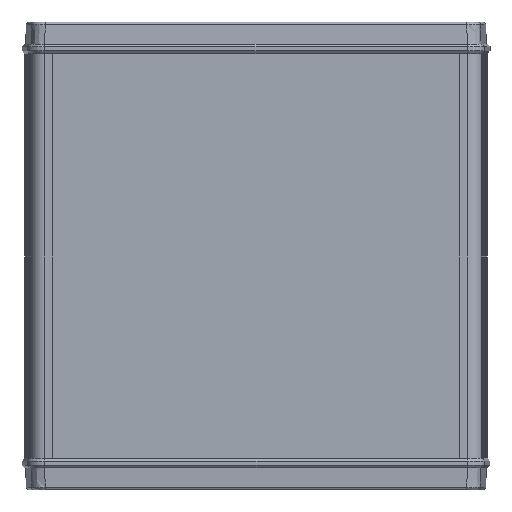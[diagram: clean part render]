
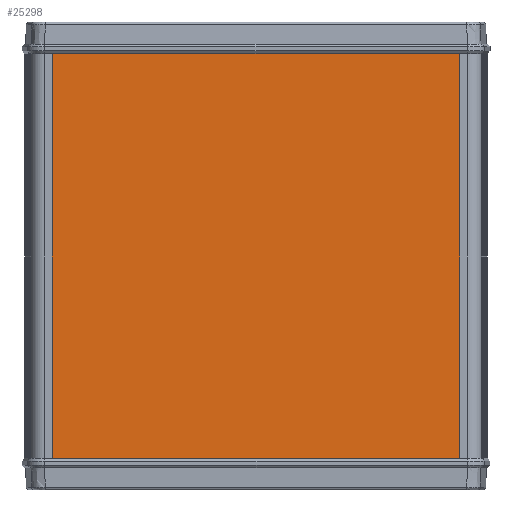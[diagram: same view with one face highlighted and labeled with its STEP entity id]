
A CAD part, front view. The second image highlights one B-rep face of the part: STEP entity #25298.
In plain terms, the highlighted planar face has unit normal (0, -1, 0).
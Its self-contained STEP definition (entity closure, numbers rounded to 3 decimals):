
#2360=FACE_OUTER_BOUND('',#3836,.T.);
#3836=EDGE_LOOP('',(#17701,#17702,#17703,#17704));
#5868=LINE('',#38002,#8458);
#5869=LINE('',#38005,#8459);
#5870=LINE('',#38007,#8460);
#5871=LINE('',#38008,#8461);
#8458=VECTOR('',#30386,150.);
#8459=VECTOR('',#30389,149.);
#8460=VECTOR('',#30390,149.);
#8461=VECTOR('',#30391,150.);
#10915=VERTEX_POINT('',#37998);
#10916=VERTEX_POINT('',#38000);
#10917=VERTEX_POINT('',#38004);
#10918=VERTEX_POINT('',#38006);
#13656=EDGE_CURVE('',#10916,#10915,#5868,.T.);
#13657=EDGE_CURVE('',#10917,#10915,#5869,.T.);
#13658=EDGE_CURVE('',#10916,#10918,#5870,.T.);
#13659=EDGE_CURVE('',#10918,#10917,#5871,.T.);
#17701=ORIENTED_EDGE('',*,*,#13657,.T.);
#17702=ORIENTED_EDGE('',*,*,#13656,.F.);
#17703=ORIENTED_EDGE('',*,*,#13658,.T.);
#17704=ORIENTED_EDGE('',*,*,#13659,.T.);
#24444=PLANE('',#26911);
#25298=ADVANCED_FACE('',(#2360),#24444,.T.);
#26911=AXIS2_PLACEMENT_3D('',#38003,#30387,#30388);
#30386=DIRECTION('',(0.,0.,-1.));
#30387=DIRECTION('center_axis',(0.,-1.,0.));
#30388=DIRECTION('ref_axis',(0.,0.,-1.));
#30389=DIRECTION('',(1.,0.,0.));
#30390=DIRECTION('',(-1.,0.,0.));
#30391=DIRECTION('',(0.,0.,-1.));
#37998=CARTESIAN_POINT('',(155.304,66.916,-200.));
#38000=CARTESIAN_POINT('',(155.304,66.916,-50.));
#38002=CARTESIAN_POINT('',(155.304,66.916,-50.));
#38003=CARTESIAN_POINT('Origin',(6.304,66.916,0.));
#38004=CARTESIAN_POINT('',(6.304,66.916,-200.));
#38005=CARTESIAN_POINT('',(6.304,66.916,-200.));
#38006=CARTESIAN_POINT('',(6.304,66.916,-50.));
#38007=CARTESIAN_POINT('',(155.304,66.916,-50.));
#38008=CARTESIAN_POINT('',(6.304,66.916,-50.));
